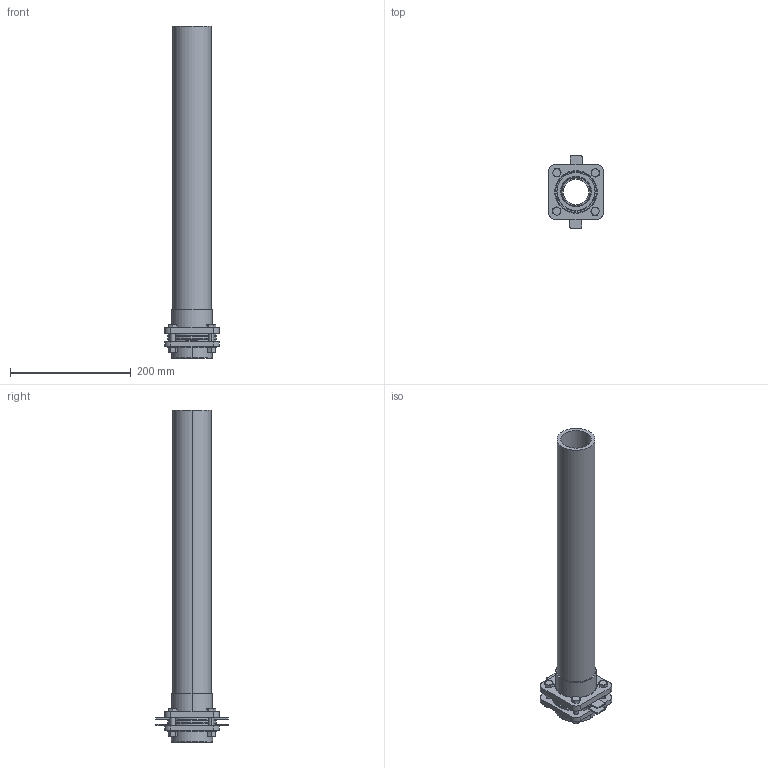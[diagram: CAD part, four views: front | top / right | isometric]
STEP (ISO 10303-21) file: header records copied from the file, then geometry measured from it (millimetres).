
FILE_DESCRIPTION (( 'STEP AP203' ), '1' );
FILE_NAME ('KP_C16-63F-L.step', '2011-08-08T12:00:42', ( '' ), ( '' ), 'SwSTEP 2.0', 'SolidWorks 2011', '' );
FILE_SCHEMA (( 'CONFIG_CONTROL_DESIGN' ));
Length unit declared in the file: millimetre
Products named in the file (1): KP_C16-63F-L
Bounding box: 90 x 120.17 x 550 mm (x, y, z)
Volume: 734415.3 mm3; surface area: 266477.7 mm2
Topology: 1 solids, 1 shells, 380 faces, 879 edges, 546 vertices
Faces by surface type: cone 129, plane 126, cylinder 106, torus 14, bspline 5
Entity records: 20848 total; most frequent: CARTESIAN_POINT 12250, DIRECTION 1778, ORIENTED_EDGE 1758, EDGE_CURVE 879, AXIS2_PLACEMENT_3D 731, VERTEX_POINT 546, EDGE_LOOP 435, ADVANCED_FACE 380
